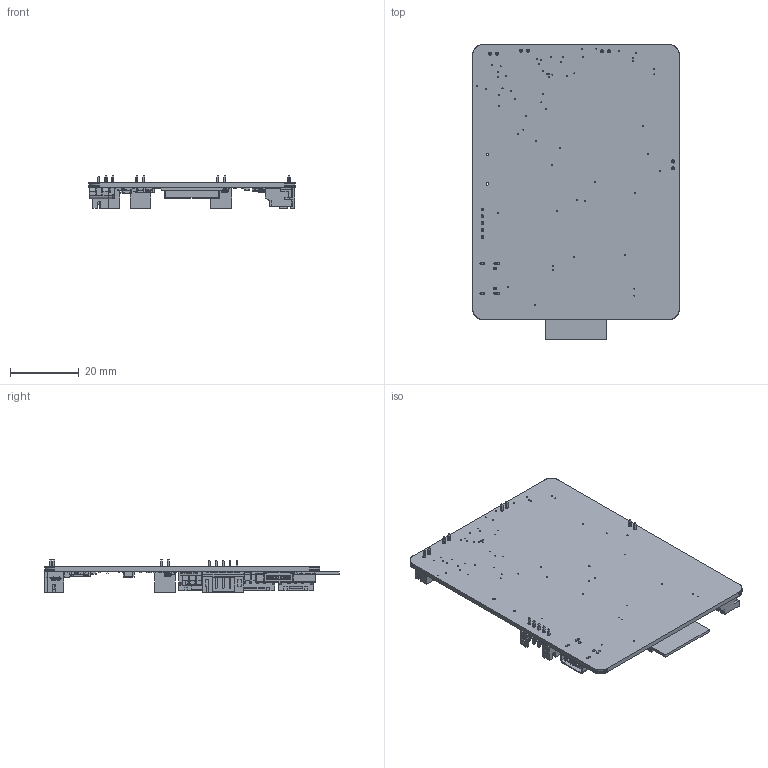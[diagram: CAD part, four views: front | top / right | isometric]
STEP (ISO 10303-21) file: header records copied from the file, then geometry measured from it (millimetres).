
FILE_DESCRIPTION(('Open CASCADE Model'),'2;1');
FILE_NAME('C27_UC1_REF_PCB','2026-09-09T20:28:25',('Author'),( 'Open CASCADE'),'Open CASCADE STEP processor 7.9','build123d', 'Unknown');
FILE_SCHEMA(('AUTOMOTIVE_DESIGN { 1 0 10303 214 1 1 1 1 }'));
Length unit declared in the file: millimetre
Products named in the file (201): C27_UC1_REF_PCB; C27_UC1_REF_PCB_258; C27_UC1_REF_PCB_254; C27_UC1_REF_PCB_285; C27_UC1_REF_PCB_4; C27_UC1_REF_PCB_5; C27_UC1_REF_PCB_6; C27_UC1_REF_PCB_7; C27_UC1_REF_PCB_8; C27_UC1_REF_PCB_9; C27_UC1_REF_PCB_10; C27_UC1_REF_PCB_11; C27_UC1_REF_PCB_12; C27_UC1_REF_PCB_13; C27_UC1_REF_PCB_14; C27_UC1_REF_PCB_15; C27_UC1_REF_PCB_16; C27_UC1_REF_PCB_17; C27_UC1_REF_PCB_18; C27_UC1_REF_PCB_159; C27_UC1_REF_PCB_160; C27_UC1_REF_PCB_161; C27_UC1_REF_PCB_162; C27_UC1_REF_PCB_163; C27_UC1_REF_PCB_164; C27_UC1_REF_PCB_165; C27_UC1_REF_PCB_166; C27_UC1_REF_PCB_167; C27_UC1_REF_PCB_168; C27_UC1_REF_PCB_169; C27_UC1_REF_PCB_170; C27_UC1_REF_PCB_171; C27_UC1_REF_PCB_172; C27_UC1_REF_PCB_41; C27_UC1_REF_PCB_42; C27_UC1_REF_PCB_43; C27_UC1_REF_PCB_44; C27_UC1_REF_PCB_45; C27_UC1_REF_PCB_46; C27_UC1_REF_PCB_47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
Assembly tree (306 placements, depth 2):
  C27_UC1_REF_PCB
    C27_UC1_REF_PCB_258  x11
    C27_UC1_REF_PCB_254  x14
    C27_UC1_REF_PCB_285  x34
    C27_UC1_REF_PCB_4
    C27_UC1_REF_PCB_5
    C27_UC1_REF_PCB_6
    C27_UC1_REF_PCB_7
    C27_UC1_REF_PCB_8
    C27_UC1_REF_PCB_9
    C27_UC1_REF_PCB_10
    C27_UC1_REF_PCB_11
    C27_UC1_REF_PCB_12
    C27_UC1_REF_PCB_13
    C27_UC1_REF_PCB_14
    C27_UC1_REF_PCB_15
    C27_UC1_REF_PCB_16
    C27_UC1_REF_PCB_17
    C27_UC1_REF_PCB_18
    C27_UC1_REF_PCB_159  x4
    C27_UC1_REF_PCB_160  x4
    C27_UC1_REF_PCB_161  x4
    C27_UC1_REF_PCB_162  x4
    C27_UC1_REF_PCB_163  x4
    C27_UC1_REF_PCB_164  x4
    C27_UC1_REF_PCB_165  x4
    C27_UC1_REF_PCB_166  x4
    C27_UC1_REF_PCB_167  x4
    C27_UC1_REF_PCB_168  x4
    C27_UC1_REF_PCB_169  x4
    C27_UC1_REF_PCB_170  x4
    C27_UC1_REF_PCB_171  x4
    C27_UC1_REF_PCB_172  x4
    C27_UC1_REF_PCB_41
    C27_UC1_REF_PCB_42
    C27_UC1_REF_PCB_43
    C27_UC1_REF_PCB_44
    C27_UC1_REF_PCB_45
    C27_UC1_REF_PCB_46
    C27_UC1_REF_PCB_47
    C27_UC1_REF_PCB_48
    C27_UC1_REF_PCB_49
    C27_UC1_REF_PCB_50
    C27_UC1_REF_PCB_51
    C27_UC1_REF_PCB_52
    C27_UC1_REF_PCB_53
    C27_UC1_REF_PCB_54
    C27_UC1_REF_PCB_55
    C27_UC1_REF_PCB_70
    C27_UC1_REF_PCB_71
    C27_UC1_REF_PCB_72
    C27_UC1_REF_PCB_73
    C27_UC1_REF_PCB_74
    C27_UC1_REF_PCB_75
    C27_UC1_REF_PCB_76
    C27_UC1_REF_PCB_77
    C27_UC1_REF_PCB_78
    C27_UC1_REF_PCB_79
    C27_UC1_REF_PCB_80
    C27_UC1_REF_PCB_81
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Bounding box: 60 x 85.75 x 9.5 mm (x, y, z)
Volume: 8712 mm3; surface area: 15915.6 mm2
Topology: 306 solids, 311 shells, 9774 faces, 25912 edges, 16938 vertices
Faces by surface type: plane 6762, cylinder 1472, bspline 1442, torus 46, sphere 28, cone 24
Full cylindrical faces by diameter (mm): 0.3 x59, 0.375 x1, 0.5 x1, 0.75 x4, 0.813 x5, 0.9 x8
Entity records: 487898 total; most frequent: CARTESIAN_POINT 131019, DIRECTION 60065, LINE 44647, VECTOR 44647, ORIENTED_EDGE 36610, PCURVE 36610, DEFINITIONAL_REPRESENTATION 36610, EDGE_CURVE 18305
